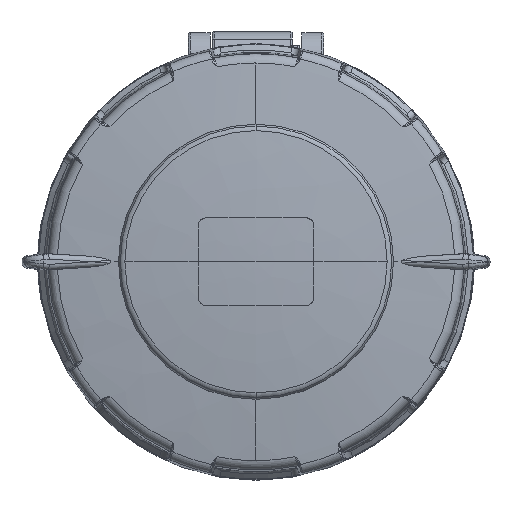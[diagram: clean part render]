
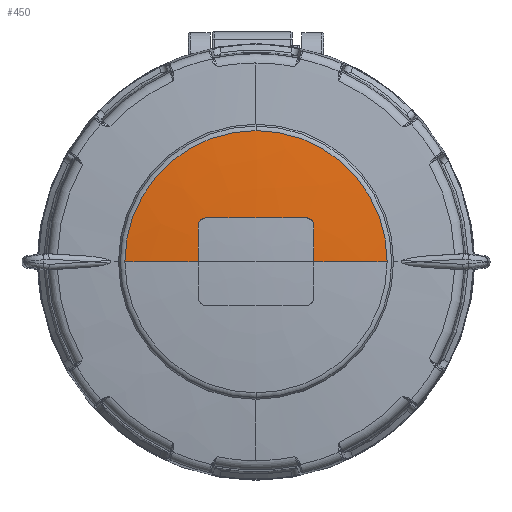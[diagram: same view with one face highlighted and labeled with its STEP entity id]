
A CAD part, top view. The second image highlights one B-rep face of the part: STEP entity #450.
In plain terms, the highlighted free-form (B-spline) face has degree [3, 3] with [4, 7] control points.
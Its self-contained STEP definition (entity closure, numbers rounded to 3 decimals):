
#253 = EDGE_CURVE('',#254,#256,#258,.T.);
#254 = VERTEX_POINT('',#255);
#255 = CARTESIAN_POINT('',(-32.898,0.232,87.022)
  );
#256 = VERTEX_POINT('',#257);
#257 = CARTESIAN_POINT('',(0.,33.13,
    87.022));
#258 = CIRCLE('',#259,32.897);
#259 = AXIS2_PLACEMENT_3D('',#260,#261,#262);
#260 = CARTESIAN_POINT('',(0.,0.232,
    87.022));
#261 = DIRECTION('',(0.,0.,-1.));
#262 = DIRECTION('',(-1.,0.,
    0.));
#296 = EDGE_CURVE('',#297,#299,#301,.T.);
#297 = VERTEX_POINT('',#298);
#298 = CARTESIAN_POINT('',(14.5,0.232,88.495)
  );
#299 = VERTEX_POINT('',#300);
#300 = CARTESIAN_POINT('',(32.898,0.232,87.022)
  );
#301 = CIRCLE('',#302,305.024);
#302 = AXIS2_PLACEMENT_3D('',#303,#304,#305);
#303 = CARTESIAN_POINT('',(-0.634,0.232,
    -216.153));
#304 = DIRECTION('',(0.,1.,
    0.));
#305 = DIRECTION('',(0.11,0.,0.994));
#380 = VERTEX_POINT('',#381);
#381 = CARTESIAN_POINT('',(-14.5,0.232,88.495));
#388 = EDGE_CURVE('',#380,#254,#389,.T.);
#389 = CIRCLE('',#390,305.024);
#390 = AXIS2_PLACEMENT_3D('',#391,#392,#393);
#391 = CARTESIAN_POINT('',(0.634,0.232,-216.153
    ));
#392 = DIRECTION('',(0.,-1.,
    0.));
#393 = DIRECTION('',(-0.11,0.,0.994)
  );
#439 = EDGE_CURVE('',#256,#299,#440,.T.);
#440 = CIRCLE('',#441,32.897);
#441 = AXIS2_PLACEMENT_3D('',#442,#443,#444);
#442 = CARTESIAN_POINT('',(0.,0.232,
    87.022));
#443 = DIRECTION('',(0.,0.,-1.));
#444 = DIRECTION('',(0.,1.,0.));
#450 = ADVANCED_FACE('',(#451),#536,.T.);
#451 = FACE_BOUND('',#452,.T.);
#452 = EDGE_LOOP('',(#453,#454,#463,#484,#496,#505,#526,#533,#534,#535)
  );
#453 = ORIENTED_EDGE('',*,*,#388,.F.);
#454 = ORIENTED_EDGE('',*,*,#455,.F.);
#455 = EDGE_CURVE('',#456,#380,#458,.T.);
#456 = VERTEX_POINT('',#457);
#457 = CARTESIAN_POINT('',(-14.5,9.233,88.357)
  );
#458 = B_SPLINE_CURVE_WITH_KNOTS('',3,(#459,#460,#461,#462),
  .UNSPECIFIED.,.F.,.F.,(4,4),(0.,1.),.PIECEWISE_BEZIER_KNOTS.);
#459 = CARTESIAN_POINT('',(-14.5,9.233,88.357));
#460 = CARTESIAN_POINT('',(-14.5,6.234,88.449));
#461 = CARTESIAN_POINT('',(-14.5,3.233,88.495));
#462 = CARTESIAN_POINT('',(-14.5,0.232,88.495));
#463 = ORIENTED_EDGE('',*,*,#464,.T.);
#464 = EDGE_CURVE('',#456,#465,#467,.T.);
#465 = VERTEX_POINT('',#466);
#466 = CARTESIAN_POINT('',(-12.5,11.232,
    88.381));
#467 = B_SPLINE_CURVE_WITH_KNOTS('',3,(#468,#469,#470,#471,#472,#473,
    #474,#475,#476,#477,#478,#479,#480,#481,#482,#483),.UNSPECIFIED.,.F.
  ,.F.,(4,3,3,3,3,4),(0.,0.215,0.429,0.644,
    0.859,1.),.UNSPECIFIED.);
#468 = CARTESIAN_POINT('',(-14.5,9.233,88.357
    ));
#469 = CARTESIAN_POINT('',(-14.5,9.456,
    88.35));
#470 = CARTESIAN_POINT('',(-14.461,9.683,
    88.345));
#471 = CARTESIAN_POINT('',(-14.387,9.894,88.342
    ));
#472 = CARTESIAN_POINT('',(-14.313,10.105,
    88.338));
#473 = CARTESIAN_POINT('',(-14.202,10.306,
    88.337));
#474 = CARTESIAN_POINT('',(-14.062,10.481,
    88.337));
#475 = CARTESIAN_POINT('',(-13.923,10.656,
    88.338));
#476 = CARTESIAN_POINT('',(-13.751,10.809,
    88.341));
#477 = CARTESIAN_POINT('',(-13.562,10.927,
    88.345));
#478 = CARTESIAN_POINT('',(-13.372,11.046,
    88.35));
#479 = CARTESIAN_POINT('',(-13.16,11.134,
    88.356));
#480 = CARTESIAN_POINT('',(-12.942,11.183,
    88.364));
#481 = CARTESIAN_POINT('',(-12.797,11.216,
    88.369));
#482 = CARTESIAN_POINT('',(-12.648,11.232,
    88.375));
#483 = CARTESIAN_POINT('',(-12.5,11.232,
    88.381));
#484 = ORIENTED_EDGE('',*,*,#485,.F.);
#485 = EDGE_CURVE('',#486,#465,#488,.T.);
#486 = VERTEX_POINT('',#487);
#487 = CARTESIAN_POINT('',(0.,11.232,
    88.649));
#488 = B_SPLINE_CURVE_WITH_KNOTS('',3,(#489,#490,#491,#492,#493,#494,
    #495),.UNSPECIFIED.,.F.,.F.,(4,3,4),(0.,0.88,1.),
  .UNSPECIFIED.);
#489 = CARTESIAN_POINT('',(0.,11.232,
    88.649));
#490 = CARTESIAN_POINT('',(-3.669,11.232,
    88.649));
#491 = CARTESIAN_POINT('',(-7.338,11.232,
    88.579));
#492 = CARTESIAN_POINT('',(-11.004,11.232,
    88.441));
#493 = CARTESIAN_POINT('',(-11.503,11.232,
    88.422));
#494 = CARTESIAN_POINT('',(-12.001,11.232,
    88.402));
#495 = CARTESIAN_POINT('',(-12.5,11.232,
    88.381));
#496 = ORIENTED_EDGE('',*,*,#497,.F.);
#497 = EDGE_CURVE('',#498,#486,#500,.T.);
#498 = VERTEX_POINT('',#499);
#499 = CARTESIAN_POINT('',(12.5,11.232,88.381)
  );
#500 = B_SPLINE_CURVE_WITH_KNOTS('',3,(#501,#502,#503,#504),
  .UNSPECIFIED.,.F.,.F.,(4,4),(0.,1.),.PIECEWISE_BEZIER_KNOTS.);
#501 = CARTESIAN_POINT('',(12.5,11.232,
    88.381));
#502 = CARTESIAN_POINT('',(8.335,11.232,88.558
    ));
#503 = CARTESIAN_POINT('',(4.168,11.232,88.649
    ));
#504 = CARTESIAN_POINT('',(0.,11.232,
    88.649));
#505 = ORIENTED_EDGE('',*,*,#506,.T.);
#506 = EDGE_CURVE('',#498,#507,#509,.T.);
#507 = VERTEX_POINT('',#508);
#508 = CARTESIAN_POINT('',(14.5,9.233,
    88.357));
#509 = B_SPLINE_CURVE_WITH_KNOTS('',3,(#510,#511,#512,#513,#514,#515,
    #516,#517,#518,#519,#520,#521,#522,#523,#524,#525),.UNSPECIFIED.,.F.
  ,.F.,(4,3,3,3,3,4),(0.,0.215,0.43,0.645,
    0.859,1.),.UNSPECIFIED.);
#510 = CARTESIAN_POINT('',(12.5,11.232,
    88.381));
#511 = CARTESIAN_POINT('',(12.723,11.232,
    88.371));
#512 = CARTESIAN_POINT('',(12.95,11.194,
    88.363));
#513 = CARTESIAN_POINT('',(13.161,11.12,
    88.356));
#514 = CARTESIAN_POINT('',(13.373,11.046,
    88.35));
#515 = CARTESIAN_POINT('',(13.574,10.934,
    88.344));
#516 = CARTESIAN_POINT('',(13.749,10.795,
    88.341));
#517 = CARTESIAN_POINT('',(13.924,10.655,
    88.338));
#518 = CARTESIAN_POINT('',(14.077,10.483,
    88.337));
#519 = CARTESIAN_POINT('',(14.195,10.293,88.338)
  );
#520 = CARTESIAN_POINT('',(14.314,10.104,
    88.338));
#521 = CARTESIAN_POINT('',(14.402,9.891,
    88.341));
#522 = CARTESIAN_POINT('',(14.451,9.673,
    88.346));
#523 = CARTESIAN_POINT('',(14.483,9.529,88.349)
  );
#524 = CARTESIAN_POINT('',(14.5,9.38,88.353
    ));
#525 = CARTESIAN_POINT('',(14.5,9.233,
    88.357));
#526 = ORIENTED_EDGE('',*,*,#527,.F.);
#527 = EDGE_CURVE('',#297,#507,#528,.T.);
#528 = B_SPLINE_CURVE_WITH_KNOTS('',3,(#529,#530,#531,#532),
  .UNSPECIFIED.,.F.,.F.,(4,4),(0.,1.),.PIECEWISE_BEZIER_KNOTS.);
#529 = CARTESIAN_POINT('',(14.5,0.232,88.495));
#530 = CARTESIAN_POINT('',(14.5,3.233,88.495));
#531 = CARTESIAN_POINT('',(14.5,6.234,
    88.449));
#532 = CARTESIAN_POINT('',(14.5,9.233,
    88.357));
#533 = ORIENTED_EDGE('',*,*,#296,.T.);
#534 = ORIENTED_EDGE('',*,*,#439,.F.);
#535 = ORIENTED_EDGE('',*,*,#253,.F.);
#536 = ( BOUNDED_SURFACE() B_SPLINE_SURFACE(3,3,(
    (#537,#538,#539,#540,#541,#542,#543)
    ,(#544,#545,#546,#547,#548,#549,#550)
    ,(#551,#552,#553,#554,#555,#556,#557)
    ,(#558,#559,#560,#561,#562,#563,#564
)),.UNSPECIFIED.,.F.,.F.,.F.) B_SPLINE_SURFACE_WITH_KNOTS((4,4),(4,3,4),
  (0.,1.),(0.,0.5,1.),.PIECEWISE_BEZIER_KNOTS.) 
GEOMETRIC_REPRESENTATION_ITEM() RATIONAL_B_SPLINE_SURFACE((
    (1.,0.803,0.803,1.,0.803,0.803
      ,1.)
    ,(1.,0.802,0.802,1.
      ,0.802,0.802,1.)
    ,(1.,0.802,0.802,1.
      ,0.802,0.802,1.)
    ,(1.,0.803,0.803,1.,0.803,0.803
,1.))) REPRESENTATION_ITEM('') SURFACE() );
#537 = CARTESIAN_POINT('',(-33.029,0.232,
    87.008));
#538 = CARTESIAN_POINT('',(-33.029,19.725,
    87.008));
#539 = CARTESIAN_POINT('',(-19.181,33.443,
    87.008));
#540 = CARTESIAN_POINT('',(0.311,33.26,
    87.008));
#541 = CARTESIAN_POINT('',(19.803,33.076,
    87.008));
#542 = CARTESIAN_POINT('',(33.39,19.099,
    87.008));
#543 = CARTESIAN_POINT('',(33.023,-0.39,
    87.008));
#544 = CARTESIAN_POINT('',(-25.663,0.232,
    87.826));
#545 = CARTESIAN_POINT('',(-25.664,15.378,
    87.826));
#546 = CARTESIAN_POINT('',(-14.903,26.038,
    87.826));
#547 = CARTESIAN_POINT('',(0.242,25.895,87.826
    ));
#548 = CARTESIAN_POINT('',(15.387,25.752,
    87.826));
#549 = CARTESIAN_POINT('',(25.945,14.892,
    87.826));
#550 = CARTESIAN_POINT('',(25.659,-0.252,
    87.826));
#551 = CARTESIAN_POINT('',(-18.273,0.232,
    88.375));
#552 = CARTESIAN_POINT('',(-18.274,11.017,
    88.375));
#553 = CARTESIAN_POINT('',(-10.612,18.607,
    88.375));
#554 = CARTESIAN_POINT('',(0.172,18.505,88.375
    ));
#555 = CARTESIAN_POINT('',(10.956,18.403,
    88.375));
#556 = CARTESIAN_POINT('',(18.474,10.67,
    88.375));
#557 = CARTESIAN_POINT('',(18.27,-0.112,
    88.375));
#558 = CARTESIAN_POINT('',(-10.868,0.232,
    88.654));
#559 = CARTESIAN_POINT('',(-10.868,6.647,
    88.654));
#560 = CARTESIAN_POINT('',(-6.312,11.161,
    88.654));
#561 = CARTESIAN_POINT('',(0.102,11.1,
    88.654));
#562 = CARTESIAN_POINT('',(6.516,11.04,
    88.654));
#563 = CARTESIAN_POINT('',(10.987,6.441,
    88.654));
#564 = CARTESIAN_POINT('',(10.866,0.027,
    88.654));
